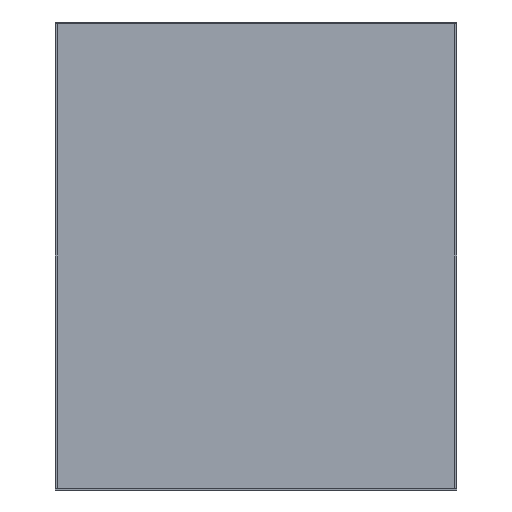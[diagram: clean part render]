
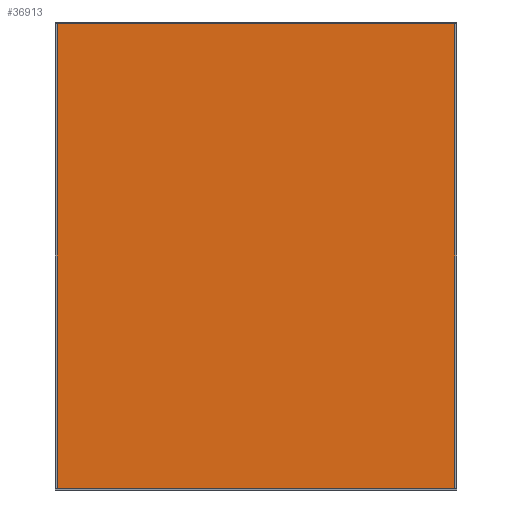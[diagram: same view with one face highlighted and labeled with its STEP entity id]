
A CAD part, front view. The second image highlights one B-rep face of the part: STEP entity #36913.
In plain terms, the highlighted planar face has unit normal (0, -1, 0).
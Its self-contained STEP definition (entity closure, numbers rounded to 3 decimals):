
#36697 = EDGE_CURVE('',#36698,#36700,#36702,.T.);
#36698 = VERTEX_POINT('',#36699);
#36699 = CARTESIAN_POINT('',(-0.155,-0.096,0.002)
  );
#36700 = VERTEX_POINT('',#36701);
#36701 = CARTESIAN_POINT('',(-0.155,-0.096,
    0.364));
#36702 = SURFACE_CURVE('',#36703,(#36707,#36719),.PCURVE_S1.);
#36703 = LINE('',#36704,#36705);
#36704 = CARTESIAN_POINT('',(-0.155,-0.096,0.002)
  );
#36705 = VECTOR('',#36706,1.);
#36706 = DIRECTION('',(0.,0.,1.));
#36707 = PCURVE('',#36708,#36713);
#36708 = PLANE('',#36709);
#36709 = AXIS2_PLACEMENT_3D('',#36710,#36711,#36712);
#36710 = CARTESIAN_POINT('',(-0.155,-0.096,0.002)
  );
#36711 = DIRECTION('',(1.,0.,0.));
#36712 = DIRECTION('',(0.,0.,1.));
#36713 = DEFINITIONAL_REPRESENTATION('',(#36714),#36718);
#36714 = LINE('',#36715,#36716);
#36715 = CARTESIAN_POINT('',(0.,0.));
#36716 = VECTOR('',#36717,1.);
#36717 = DIRECTION('',(1.,0.));
#36718 = ( GEOMETRIC_REPRESENTATION_CONTEXT(2) 
PARAMETRIC_REPRESENTATION_CONTEXT() REPRESENTATION_CONTEXT('2D SPACE',''
  ) );
#36719 = PCURVE('',#36720,#36725);
#36720 = PLANE('',#36721);
#36721 = AXIS2_PLACEMENT_3D('',#36722,#36723,#36724);
#36722 = CARTESIAN_POINT('',(-0.155,-0.096,0.002)
  );
#36723 = DIRECTION('',(0.,1.,0.));
#36724 = DIRECTION('',(0.,0.,1.));
#36725 = DEFINITIONAL_REPRESENTATION('',(#36726),#36730);
#36726 = LINE('',#36727,#36728);
#36727 = CARTESIAN_POINT('',(0.,0.));
#36728 = VECTOR('',#36729,1.);
#36729 = DIRECTION('',(1.,0.));
#36730 = ( GEOMETRIC_REPRESENTATION_CONTEXT(2) 
PARAMETRIC_REPRESENTATION_CONTEXT() REPRESENTATION_CONTEXT('2D SPACE',''
  ) );
#36748 = PLANE('',#36749);
#36749 = AXIS2_PLACEMENT_3D('',#36750,#36751,#36752);
#36750 = CARTESIAN_POINT('',(-0.155,-0.096,0.002)
  );
#36751 = DIRECTION('',(0.,0.,1.));
#36752 = DIRECTION('',(1.,0.,0.));
#36802 = PLANE('',#36803);
#36803 = AXIS2_PLACEMENT_3D('',#36804,#36805,#36806);
#36804 = CARTESIAN_POINT('',(-0.155,-0.096,
    0.364));
#36805 = DIRECTION('',(0.,0.,1.));
#36806 = DIRECTION('',(1.,0.,0.));
#36817 = EDGE_CURVE('',#36818,#36820,#36822,.T.);
#36818 = VERTEX_POINT('',#36819);
#36819 = CARTESIAN_POINT('',(0.155,-0.096,0.002)
  );
#36820 = VERTEX_POINT('',#36821);
#36821 = CARTESIAN_POINT('',(0.155,-0.096,
    0.364));
#36822 = SURFACE_CURVE('',#36823,(#36827,#36839),.PCURVE_S1.);
#36823 = LINE('',#36824,#36825);
#36824 = CARTESIAN_POINT('',(0.155,-0.096,0.002)
  );
#36825 = VECTOR('',#36826,1.);
#36826 = DIRECTION('',(0.,0.,1.));
#36827 = PCURVE('',#36828,#36833);
#36828 = PLANE('',#36829);
#36829 = AXIS2_PLACEMENT_3D('',#36830,#36831,#36832);
#36830 = CARTESIAN_POINT('',(0.155,-0.096,0.002)
  );
#36831 = DIRECTION('',(1.,0.,0.));
#36832 = DIRECTION('',(0.,0.,1.));
#36833 = DEFINITIONAL_REPRESENTATION('',(#36834),#36838);
#36834 = LINE('',#36835,#36836);
#36835 = CARTESIAN_POINT('',(0.,0.));
#36836 = VECTOR('',#36837,1.);
#36837 = DIRECTION('',(1.,0.));
#36838 = ( GEOMETRIC_REPRESENTATION_CONTEXT(2) 
PARAMETRIC_REPRESENTATION_CONTEXT() REPRESENTATION_CONTEXT('2D SPACE',''
  ) );
#36839 = PCURVE('',#36720,#36840);
#36840 = DEFINITIONAL_REPRESENTATION('',(#36841),#36845);
#36841 = LINE('',#36842,#36843);
#36842 = CARTESIAN_POINT('',(0.,0.31));
#36843 = VECTOR('',#36844,1.);
#36844 = DIRECTION('',(1.,0.));
#36845 = ( GEOMETRIC_REPRESENTATION_CONTEXT(2) 
PARAMETRIC_REPRESENTATION_CONTEXT() REPRESENTATION_CONTEXT('2D SPACE',''
  ) );
#36913 = ADVANCED_FACE('',(#36914),#36720,.F.);
#36914 = FACE_BOUND('',#36915,.F.);
#36915 = EDGE_LOOP('',(#36916,#36937,#36938,#36959));
#36916 = ORIENTED_EDGE('',*,*,#36917,.F.);
#36917 = EDGE_CURVE('',#36698,#36818,#36918,.T.);
#36918 = SURFACE_CURVE('',#36919,(#36923,#36930),.PCURVE_S1.);
#36919 = LINE('',#36920,#36921);
#36920 = CARTESIAN_POINT('',(-0.155,-0.096,0.002)
  );
#36921 = VECTOR('',#36922,1.);
#36922 = DIRECTION('',(1.,0.,0.));
#36923 = PCURVE('',#36720,#36924);
#36924 = DEFINITIONAL_REPRESENTATION('',(#36925),#36929);
#36925 = LINE('',#36926,#36927);
#36926 = CARTESIAN_POINT('',(0.,0.));
#36927 = VECTOR('',#36928,1.);
#36928 = DIRECTION('',(0.,1.));
#36929 = ( GEOMETRIC_REPRESENTATION_CONTEXT(2) 
PARAMETRIC_REPRESENTATION_CONTEXT() REPRESENTATION_CONTEXT('2D SPACE',''
  ) );
#36930 = PCURVE('',#36748,#36931);
#36931 = DEFINITIONAL_REPRESENTATION('',(#36932),#36936);
#36932 = LINE('',#36933,#36934);
#36933 = CARTESIAN_POINT('',(0.,0.));
#36934 = VECTOR('',#36935,1.);
#36935 = DIRECTION('',(1.,0.));
#36936 = ( GEOMETRIC_REPRESENTATION_CONTEXT(2) 
PARAMETRIC_REPRESENTATION_CONTEXT() REPRESENTATION_CONTEXT('2D SPACE',''
  ) );
#36937 = ORIENTED_EDGE('',*,*,#36697,.T.);
#36938 = ORIENTED_EDGE('',*,*,#36939,.T.);
#36939 = EDGE_CURVE('',#36700,#36820,#36940,.T.);
#36940 = SURFACE_CURVE('',#36941,(#36945,#36952),.PCURVE_S1.);
#36941 = LINE('',#36942,#36943);
#36942 = CARTESIAN_POINT('',(-0.155,-0.096,
    0.364));
#36943 = VECTOR('',#36944,1.);
#36944 = DIRECTION('',(1.,0.,0.));
#36945 = PCURVE('',#36720,#36946);
#36946 = DEFINITIONAL_REPRESENTATION('',(#36947),#36951);
#36947 = LINE('',#36948,#36949);
#36948 = CARTESIAN_POINT('',(0.362,0.));
#36949 = VECTOR('',#36950,1.);
#36950 = DIRECTION('',(0.,1.));
#36951 = ( GEOMETRIC_REPRESENTATION_CONTEXT(2) 
PARAMETRIC_REPRESENTATION_CONTEXT() REPRESENTATION_CONTEXT('2D SPACE',''
  ) );
#36952 = PCURVE('',#36802,#36953);
#36953 = DEFINITIONAL_REPRESENTATION('',(#36954),#36958);
#36954 = LINE('',#36955,#36956);
#36955 = CARTESIAN_POINT('',(0.,0.));
#36956 = VECTOR('',#36957,1.);
#36957 = DIRECTION('',(1.,0.));
#36958 = ( GEOMETRIC_REPRESENTATION_CONTEXT(2) 
PARAMETRIC_REPRESENTATION_CONTEXT() REPRESENTATION_CONTEXT('2D SPACE',''
  ) );
#36959 = ORIENTED_EDGE('',*,*,#36817,.F.);
